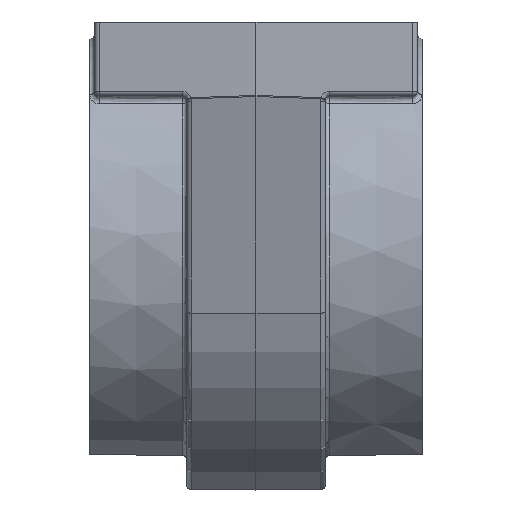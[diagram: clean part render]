
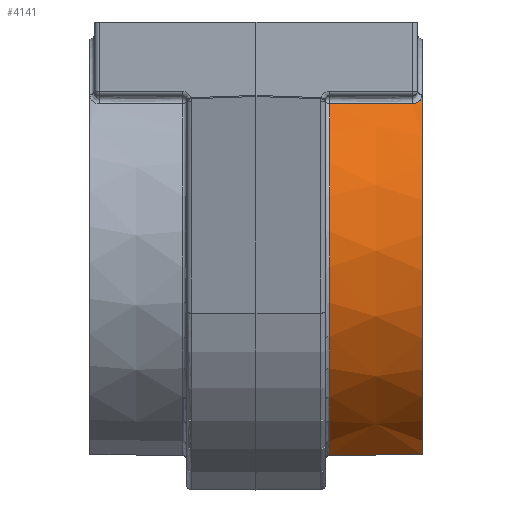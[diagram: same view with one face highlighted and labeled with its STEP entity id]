
A CAD part, left-side view. The second image highlights one B-rep face of the part: STEP entity #4141.
In plain terms, the highlighted conical face has half-angle 0.5 degrees and reference radius 46.5 mm.
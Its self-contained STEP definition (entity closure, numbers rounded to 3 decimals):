
#56 = CARTESIAN_POINT ( 'NONE',  ( -33.189, -33.325, -11.697 ) ) ;
#71 = ORIENTED_EDGE ( 'NONE', *, *, #1977, .T. ) ;
#157 = DIRECTION ( 'NONE',  ( 0., 1., 0.009 ) ) ;
#183 = ORIENTED_EDGE ( 'NONE', *, *, #2655, .T. ) ;
#244 = AXIS2_PLACEMENT_3D ( 'NONE', #3772, #2593, #2691 ) ;
#400 = CARTESIAN_POINT ( 'NONE',  ( -33.302, -23.992, -11.696 ) ) ;
#539 = CARTESIAN_POINT ( 'NONE',  ( -32.046, -35.807, -10.591 ) ) ;
#579 = DIRECTION ( 'NONE',  ( 0., -1., 0. ) ) ;
#602 = CARTESIAN_POINT ( 'NONE',  ( -14.999, -36., -87.793 ) ) ;
#786 = ORIENTED_EDGE ( 'NONE', *, *, #4278, .F. ) ;
#827 = EDGE_CURVE ( 'NONE', #2536, #3405, #3898, .T. ) ;
#828 = CARTESIAN_POINT ( 'NONE',  ( -32.559, -35.447, -11.088 ) ) ;
#849 = CARTESIAN_POINT ( 'NONE',  ( -33.084, -34.617, -11.606 ) ) ;
#903 = CARTESIAN_POINT ( 'NONE',  ( -31.13, -35.991, -9.74 ) ) ;
#1047 = CARTESIAN_POINT ( 'NONE',  ( 0., -15.991, -44. ) ) ;
#1083 = CARTESIAN_POINT ( 'NONE',  ( -33.334, -21.325, -11.696 ) ) ;
#1153 = VERTEX_POINT ( 'NONE', #3153 ) ;
#1240 = CARTESIAN_POINT ( 'NONE',  ( -33.158, -34.313, -11.678 ) ) ;
#1331 = AXIS2_PLACEMENT_3D ( 'NONE', #1047, #2521, #2563 ) ;
#1364 = CARTESIAN_POINT ( 'NONE',  ( -15.059, -22.661, -87.896 ) ) ;
#1440 = DIRECTION ( 'NONE',  ( 0., 1., 0. ) ) ;
#1452 = CARTESIAN_POINT ( 'NONE',  ( 0., -36., 2.291 ) ) ;
#1603 = CARTESIAN_POINT ( 'NONE',  ( -33.179, -34.153, -11.698 ) ) ;
#1661 = CARTESIAN_POINT ( 'NONE',  ( -33.398, -15.991, -11.695 ) ) ;
#1977 = EDGE_CURVE ( 'NONE', #4526, #2933, #2425, .T. ) ;
#2012 = CARTESIAN_POINT ( 'NONE',  ( 0., -12., 2.5 ) ) ;
#2052 = CARTESIAN_POINT ( 'NONE',  ( -15.088, -15.991, -87.947 ) ) ;
#2075 = ORIENTED_EDGE ( 'NONE', *, *, #2140, .T. ) ;
#2140 = EDGE_CURVE ( 'NONE', #2822, #2536, #4512, .T. ) ;
#2147 = CARTESIAN_POINT ( 'NONE',  ( -14.999, -36., -87.793 ) ) ;
#2197 = FACE_OUTER_BOUND ( 'NONE', #3041, .T. ) ;
#2271 = CONICAL_SURFACE ( 'NONE', #2887, 46.5, 0.009 ) ;
#2334 = VECTOR ( 'NONE', #157, 1000. ) ;
#2353 = AXIS2_PLACEMENT_3D ( 'NONE', #3842, #579, #4529 ) ;
#2425 = CIRCLE ( 'NONE', #1331, 46.465 ) ;
#2521 = DIRECTION ( 'NONE',  ( 0., -1., 0. ) ) ;
#2536 = VERTEX_POINT ( 'NONE', #1452 ) ;
#2563 = DIRECTION ( 'NONE',  ( 0., 0., -1. ) ) ;
#2593 = DIRECTION ( 'NONE',  ( 0., 1., 0. ) ) ;
#2626 = CARTESIAN_POINT ( 'NONE',  ( 0., -12., -44. ) ) ;
#2655 = EDGE_CURVE ( 'NONE', #3405, #2917, #4436, .T. ) ;
#2656 = CARTESIAN_POINT ( 'NONE',  ( -15.088, -15.991, -87.947 ) ) ;
#2691 = DIRECTION ( 'NONE',  ( 0., 0., -1. ) ) ;
#2771 = CARTESIAN_POINT ( 'NONE',  ( -32.9, -35.023, -11.423 ) ) ;
#2802 = CARTESIAN_POINT ( 'NONE',  ( -31.13, -35.991, -9.74 ) ) ;
#2822 = VERTEX_POINT ( 'NONE', #602 ) ;
#2887 = AXIS2_PLACEMENT_3D ( 'NONE', #2626, #1440, #4489 ) ;
#2917 = VERTEX_POINT ( 'NONE', #2802 ) ;
#2933 = VERTEX_POINT ( 'NONE', #2656 ) ;
#2940 = ORIENTED_EDGE ( 'NONE', *, *, #827, .T. ) ;
#3012 = CARTESIAN_POINT ( 'NONE',  ( -33.181, -33.991, -11.698 ) ) ;
#3037 = CARTESIAN_POINT ( 'NONE',  ( -33.237, -29.325, -11.697 ) ) ;
#3041 = EDGE_LOOP ( 'NONE', ( #2075, #2940, #183, #786, #4711, #71, #3699 ) ) ;
#3054 = CARTESIAN_POINT ( 'NONE',  ( -32.823, -35.14, -11.348 ) ) ;
#3078 = CARTESIAN_POINT ( 'NONE',  ( -31.367, -35.991, -9.956 ) ) ;
#3142 = EDGE_CURVE ( 'NONE', #2822, #2933, #4798, .T. ) ;
#3150 = CARTESIAN_POINT ( 'NONE',  ( -15.029, -29.33, -87.844 ) ) ;
#3153 = CARTESIAN_POINT ( 'NONE',  ( -33.181, -33.991, -11.698 ) ) ;
#3164 = B_SPLINE_CURVE_WITH_KNOTS ( 'NONE', 3,
 ( #3012, #56, #3401, #4098, #3037, #3716, #400, #1083, #4523, #1661 ),
 .UNSPECIFIED., .F., .F.,
 ( 4, 3, 3, 4 ),
 ( 0., 0.002, 0.01, 0.018 ),
 .UNSPECIFIED. ) ;
#3370 = CARTESIAN_POINT ( 'NONE',  ( -33.398, -15.991, -11.695 ) ) ;
#3401 = CARTESIAN_POINT ( 'NONE',  ( -33.197, -32.658, -11.697 ) ) ;
#3405 = VERTEX_POINT ( 'NONE', #3555 ) ;
#3555 = CARTESIAN_POINT ( 'NONE',  ( 0., -35.991, 2.291 ) ) ;
#3699 = ORIENTED_EDGE ( 'NONE', *, *, #3142, .F. ) ;
#3716 = CARTESIAN_POINT ( 'NONE',  ( -33.269, -26.658, -11.697 ) ) ;
#3772 = CARTESIAN_POINT ( 'NONE',  ( 0., -36., -44. ) ) ;
#3842 = CARTESIAN_POINT ( 'NONE',  ( 0., -35.991, -44. ) ) ;
#3854 = CARTESIAN_POINT ( 'NONE',  ( -31.598, -35.956, -10.169 ) ) ;
#3898 = LINE ( 'NONE', #2012, #2334 ) ;
#4016 = EDGE_CURVE ( 'NONE', #1153, #4526, #3164, .T. ) ;
#4074 = B_SPLINE_CURVE_WITH_KNOTS ( 'NONE', 3,
 ( #4242, #1603, #1240, #849, #4542, #2771, #3054, #4147, #828, #4612, #539, #3854, #3078, #903 ),
 .UNSPECIFIED., .F., .F.,
 ( 4, 2, 2, 2, 2, 2, 4 ),
 ( 0., 0., 0.001, 0.001, 0.002, 0.003, 0.004 ),
 .UNSPECIFIED. ) ;
#4098 = CARTESIAN_POINT ( 'NONE',  ( -33.205, -31.991, -11.697 ) ) ;
#4141 = ADVANCED_FACE ( 'NONE', ( #2197 ), #2271, .T. ) ;
#4147 = CARTESIAN_POINT ( 'NONE',  ( -32.653, -35.353, -11.18 ) ) ;
#4242 = CARTESIAN_POINT ( 'NONE',  ( -33.181, -33.991, -11.698 ) ) ;
#4278 = EDGE_CURVE ( 'NONE', #1153, #2917, #4074, .T. ) ;
#4436 = CIRCLE ( 'NONE', #2353, 46.291 ) ;
#4489 = DIRECTION ( 'NONE',  ( 0., 0., 1. ) ) ;
#4512 = CIRCLE ( 'NONE', #244, 46.291 ) ;
#4523 = CARTESIAN_POINT ( 'NONE',  ( -33.366, -18.658, -11.696 ) ) ;
#4526 = VERTEX_POINT ( 'NONE', #3370 ) ;
#4529 = DIRECTION ( 'NONE',  ( 0., 0., -1. ) ) ;
#4542 = CARTESIAN_POINT ( 'NONE',  ( -33.031, -34.759, -11.553 ) ) ;
#4612 = CARTESIAN_POINT ( 'NONE',  ( -32.265, -35.691, -10.802 ) ) ;
#4711 = ORIENTED_EDGE ( 'NONE', *, *, #4016, .T. ) ;
#4798 = B_SPLINE_CURVE_WITH_KNOTS ( 'NONE', 3,
 ( #2147, #3150, #1364, #2052 ),
 .UNSPECIFIED., .F., .F.,
 ( 4, 4 ),
 ( 0., 0.02 ),
 .UNSPECIFIED. ) ;
